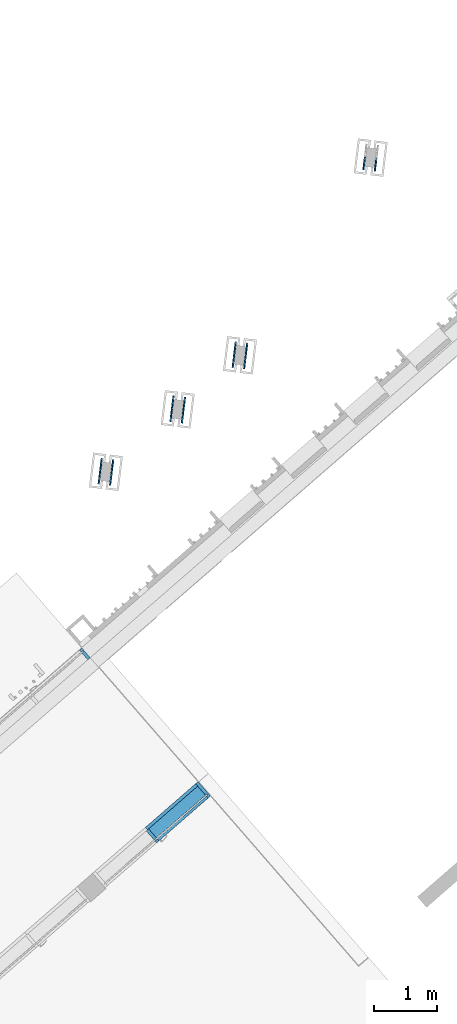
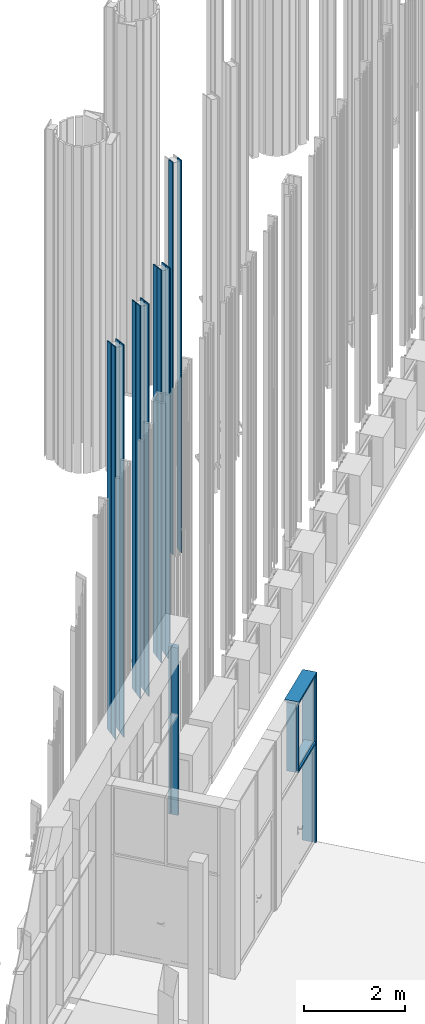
# One storey, part 45 of 390: 21 discrete accessories, 2 elements without a shape of their own.
"""IFC2X3 building model written with IfcOpenShell, lengths in millimetres."""

import ifcopenshell
import ifcopenshell.guid

model = None  # the IFC model being written
_history = None  # IfcOwnerHistory: only IFC2X3 demands one
_inside = {}  # id of a spatial element -> (the spatial element, [elements in it])
_under = {}  # id of a project, library or spatial element -> (it, [spatial elements below it])
_declared = {}  # id of a project -> (the project, [libraries it declares])
_typed = {}  # id of a type object -> (the type object, [elements of that type])
_made_of = {}  # id of a material, layer set ... -> (it, [elements and type objects made of it])


def new_model(schema):
    """Start an empty IFC model of exactly this schema.

    Asked for "IFC4X3", IfcOpenShell would pick the latest addendum, in which some entities
    have other attributes; the version numbers below select the first issue.
    IFC2X3 requires an IfcOwnerHistory on every rooted entity: one is made here for all.
    """
    global model, _history
    if schema == "IFC4X3":
        model = ifcopenshell.file(schema_version=(4, 3, 0, 0))
    else:
        model = ifcopenshell.file(schema=schema)
    _inside.clear()
    _under.clear()
    _declared.clear()
    _typed.clear()
    _made_of.clear()
    _history = None
    if model.schema == "IFC2X3":
        org = make("IfcOrganization", Name="unknown")
        user = make(
            "IfcPersonAndOrganization",
            ThePerson=make("IfcPerson", FamilyName="unknown"),
            TheOrganization=org,
        )
        app = make(
            "IfcApplication",
            ApplicationDeveloper=org,
            Version="unknown",
            ApplicationFullName="unknown",
            ApplicationIdentifier="unknown",
        )
        _history = make(
            "IfcOwnerHistory",
            OwningUser=user,
            OwningApplication=app,
            ChangeAction="ADDED",
            CreationDate=0,
        )
    return model


def make(cls, **values):
    """One entity of the class cls with the attributes given. An attribute that is None is left unset."""
    return model.create_entity(
        cls, **{name: value for name, value in values.items() if value is not None}
    )


def entity(cls, *values):
    """Any entity or typed value of the class cls, its attributes in the order of the schema. None: left unset."""
    e = model.create_entity(cls)
    for i, value in enumerate(values):
        if value is not None:
            e[i] = value
    return e


def rooted(cls, **values):
    """An entity with a GlobalId (a new one), such as an element, a storey or a relation."""
    return make(cls, GlobalId=ifcopenshell.guid.new(), OwnerHistory=_history, **values)


def si_unit(unit_type, name, prefix=None):
    """IfcSIUnit, for example si_unit("LENGTHUNIT", "METRE", prefix="MILLI")."""
    return make("IfcSIUnit", UnitType=unit_type, Prefix=prefix, Name=name)


def converted_unit(unit_type, name, factor, base, dimensions=None, offset=None):
    """IfcConversionBasedUnit, such as the inch: factor (a typed value) times the base unit."""
    return make(
        "IfcConversionBasedUnit"
        if offset is None
        else "IfcConversionBasedUnitWithOffset",
        ConversionOffset=offset,
        Dimensions=None
        if dimensions is None
        else entity("IfcDimensionalExponents", *dimensions),
        UnitType=unit_type,
        Name=name,
        ConversionFactor=make(
            "IfcMeasureWithUnit", ValueComponent=factor, UnitComponent=base
        ),
    )


def derived_unit(unit_type, elements):
    """IfcDerivedUnit: a product of units, each with its exponent."""
    return make(
        "IfcDerivedUnit",
        Elements=[
            make("IfcDerivedUnitElement", Unit=unit, Exponent=power)
            for unit, power in elements
        ],
        UnitType=unit_type,
    )


def money_unit(currency):
    """IfcMonetaryUnit."""
    return make("IfcMonetaryUnit", Currency=currency)


def assignment(units):
    """IfcUnitAssignment: the units of a project."""
    return None if units is None else make("IfcUnitAssignment", Units=units)


def point(xyz):
    """IfcCartesianPoint."""
    return None if xyz is None else make("IfcCartesianPoint", Coordinates=xyz)


def direction(xyz):
    """IfcDirection."""
    return None if xyz is None else make("IfcDirection", DirectionRatios=xyz)


def frame(location, z_axis=None, x_axis=None):
    """IfcAxis2Placement3D, a coordinate frame: its origin and axes. An axis left out is left unset."""
    return make(
        "IfcAxis2Placement3D",
        Location=point(location),
        Axis=direction(z_axis),
        RefDirection=direction(x_axis),
    )


def origin_with_axes():
    """The frame at (0, 0, 0) with the z axis (0, 0, 1) and the x axis (1, 0, 0) written out."""
    return frame((0.0, 0.0, 0.0), z_axis=(0.0, 0.0, 1.0), x_axis=(1.0, 0.0, 0.0))


def place(relative_to, where):
    """IfcLocalPlacement: puts the frame where relative to a parent placement (None: the world)."""
    return make(
        "IfcLocalPlacement", PlacementRelTo=relative_to, RelativePlacement=where
    )


def context(
    kind, dimensions, precision=None, world=None, true_north=None, identifier=None
):
    """IfcGeometricRepresentationContext, for example the 3D "Model" context."""
    return make(
        "IfcGeometricRepresentationContext",
        ContextIdentifier=identifier,
        ContextType=kind,
        CoordinateSpaceDimension=dimensions,
        Precision=precision,
        WorldCoordinateSystem=world,
        TrueNorth=true_north,
    )


def subcontext(parent, identifier, kind, view, scale=None):
    """IfcGeometricRepresentationSubContext, for example "Body" below "Model"."""
    return make(
        "IfcGeometricRepresentationSubContext",
        ContextIdentifier=identifier,
        ContextType=kind,
        ParentContext=parent,
        TargetScale=scale,
        TargetView=view,
    )


def project(units=None, contexts=None):
    """IfcProject with its units and contexts."""
    return rooted(
        "IfcProject",
        Name="project",
        RepresentationContexts=contexts,
        UnitsInContext=assignment(units),
    )


def spatial(cls, under=None, at=None, **own):
    """A site, building, storey or space (cls), placed at a placement, below another one or the project."""
    s = rooted(cls, ObjectPlacement=at, **own)
    if under is not None:
        _under.setdefault(under.id(), (under, []))[1].append(s)
    return s


def polyline(points):
    """IfcPolyline through the points."""
    return make("IfcPolyline", Points=[point(p) for p in points])


def outline(outer, holes=None, kind="AREA"):
    """IfcArbitraryClosedProfileDef: a profile drawn as a closed curve; with holes, ...WithVoids."""
    if holes is None:
        return make("IfcArbitraryClosedProfileDef", ProfileType=kind, OuterCurve=outer)
    return make(
        "IfcArbitraryProfileDefWithVoids",
        ProfileType=kind,
        OuterCurve=outer,
        InnerCurves=holes,
    )


def extrude(swept, where, along, depth):
    """IfcExtrudedAreaSolid: the profile swept, set in the frame where, extruded along a direction by depth."""
    return make(
        "IfcExtrudedAreaSolid",
        SweptArea=swept,
        Position=where,
        ExtrudedDirection=direction(along),
        Depth=depth,
    )


def clip(a, b, op="DIFFERENCE"):
    """IfcBooleanClippingResult: the solid a cut by the half space b."""
    return make(
        "IfcBooleanClippingResult", Operator=op, FirstOperand=a, SecondOperand=b
    )


def halfspace(plane, agree):
    """IfcHalfSpaceSolid: all space on one side of the plane z = 0 of the frame plane."""
    return make(
        "IfcHalfSpaceSolid",
        BaseSurface=make("IfcPlane", Position=plane),
        AgreementFlag=agree,
    )


def faces_of(points, faces, orient=None, outer=None):
    """IfcFace entities. A face is a list of loops; a loop is a list of indices into points, from 0.

    orient and outer hold one flag for each loop. By default every Orientation is true, the
    first loop of a face is its IfcFaceOuterBound and the others are IfcFaceBound.
    """
    made = []
    for i, loops in enumerate(faces):
        bounds = []
        for j, loop in enumerate(loops):
            is_outer = j == 0 if outer is None else outer[i][j]
            bounds.append(
                make(
                    "IfcFaceOuterBound" if is_outer else "IfcFaceBound",
                    Bound=make("IfcPolyLoop", Polygon=[points[k] for k in loop]),
                    Orientation=True if orient is None else orient[i][j],
                )
            )
        made.append(make("IfcFace", Bounds=bounds))
    return made


def faceted_brep(points, faces, orient=None, outer=None, voids=None):
    """IfcFacetedBrep: a solid bounded by flat faces; with voids (closed shells), ...WithVoids."""
    shared = [point(p) for p in points]
    hull = make("IfcClosedShell", CfsFaces=faces_of(shared, faces, orient, outer))
    if voids is None:
        return make("IfcFacetedBrep", Outer=hull)
    return make(
        "IfcFacetedBrepWithVoids",
        Outer=hull,
        Voids=[
            make(cls, CfsFaces=faces_of(shared, fs, o, b)) for cls, fs, o, b in voids
        ],
    )


def shape(context_of_items, identifier, shape_type, items):
    """IfcShapeRepresentation: the items that make up one representation, for example the "Body"."""
    return make(
        "IfcShapeRepresentation",
        ContextOfItems=context_of_items,
        RepresentationIdentifier=identifier,
        RepresentationType=shape_type,
        Items=items,
    )


def source(mapping_origin, context_of_items, identifier, shape_type, items):
    """IfcRepresentationMap: a shape defined once, which mapped items show again and again."""
    return make(
        "IfcRepresentationMap",
        MappingOrigin=mapping_origin,
        MappedRepresentation=shape(context_of_items, identifier, shape_type, items),
    )


def transform(
    local_origin,
    x_axis=None,
    y_axis=None,
    z_axis=None,
    scale=None,
    scale2=None,
    scale3=None,
    uniform=True,
):
    """IfcCartesianTransformationOperator3D, or its non-uniform kind. x_axis, y_axis, z_axis: its Axis1, 2, 3."""
    if uniform:
        return make(
            "IfcCartesianTransformationOperator3D",
            Axis1=direction(x_axis),
            Axis2=direction(y_axis),
            LocalOrigin=point(local_origin),
            Scale=scale,
            Axis3=direction(z_axis),
        )
    return make(
        "IfcCartesianTransformationOperator3DnonUniform",
        Axis1=direction(x_axis),
        Axis2=direction(y_axis),
        LocalOrigin=point(local_origin),
        Scale=scale,
        Axis3=direction(z_axis),
        Scale2=scale2,
        Scale3=scale3,
    )


def mapped(mapping_source, mapping_target):
    """IfcMappedItem: shows the shape of a source again, moved by a transform."""
    return make(
        "IfcMappedItem", MappingSource=mapping_source, MappingTarget=mapping_target
    )


def material(Name=None, Category=None):
    """IfcMaterial."""
    return make("IfcMaterial", Name=Name, Category=Category)


def material_list(materials):
    """IfcMaterialList."""
    return make("IfcMaterialList", Materials=materials)


def made_of(thing, what):
    """Note that an element or type object is made of a material, layer set ...; save() writes the relation."""
    if what is not None:
        _made_of.setdefault(what.id(), (what, []))[1].append(thing)
    return thing


def type_object(cls, material=None, **own):
    """A type object (cls), such as IfcWallType, which elements share."""
    return made_of(rooted(cls, **own), material)


def element(
    cls,
    number,
    at=None,
    inside=None,
    cuts=None,
    type_object=None,
    material=None,
    context=None,
    identifier="Body",
    shape_type=None,
    held_by="IfcProductDefinitionShape",
    body=None,
    shapes=None,
    **own,
):
    """One element of the class cls, such as IfcWall. Its Tag is "e" and its number.

    at: its placement. inside: the storey or other place that contains it. cuts: it is an
    opening in that element (IfcRelVoidsElement). A single representation is given by context,
    identifier, shape_type and body (its items); several are given by shapes. held_by: the class
    of the entity that holds the representations. save() writes the other relations.
    """
    e = rooted(cls, Tag="e%d" % number, ObjectPlacement=at, **own)
    if body is not None:
        shapes = [shape(context, identifier, shape_type, body)]
    if shapes is not None:
        e.Representation = make(held_by, Representations=shapes)
    if inside is not None:
        _inside.setdefault(inside.id(), (inside, []))[1].append(e)
    if cuts is not None:
        rooted(
            "IfcRelVoidsElement", RelatingBuildingElement=cuts, RelatedOpeningElement=e
        )
    if type_object is not None:
        _typed.setdefault(type_object.id(), (type_object, []))[1].append(e)
    return made_of(e, material)


def aggregate(whole, parts):
    """IfcRelAggregates: a whole, such as a stair, and the parts it consists of."""
    return rooted("IfcRelAggregates", RelatingObject=whole, RelatedObjects=parts)


def save(model, path):
    """Write the relations noted so far, then the file.

    IfcRelAggregates (storeys below a building ...), IfcRelContainedInSpatialStructure (elements
    in a storey), IfcRelDefinesByType, IfcRelAssociatesMaterial and IfcRelDeclares: one each for
    every whole, place, type object, material and project.
    """
    for whole, parts in _under.values():
        aggregate(whole, parts)
    for where, things in _inside.values():
        rooted(
            "IfcRelContainedInSpatialStructure",
            RelatedElements=things,
            RelatingStructure=where,
        )
    for kind, things in _typed.values():
        rooted("IfcRelDefinesByType", RelatedObjects=things, RelatingType=kind)
    for what, things in _made_of.values():
        rooted("IfcRelAssociatesMaterial", RelatedObjects=things, RelatingMaterial=what)
    for by, libraries in _declared.values():
        rooted("IfcRelDeclares", RelatingContext=by, RelatedDefinitions=libraries)
    model.write(path)


model = new_model("IFC2X3")

# Units and contexts
model_context = context("Model", 3, precision=1e-05, world=origin_with_axes(), true_north=direction((0.0, 1.0)))
body_context = subcontext(model_context, "Body", "Model", "MODEL_VIEW")
ifc_project = project(units=[si_unit("LENGTHUNIT", "METRE", prefix="MILLI"), si_unit("AREAUNIT", "SQUARE_METRE"), si_unit("VOLUMEUNIT", "CUBIC_METRE"), converted_unit("PLANEANGLEUNIT", "DEGREE", entity("IfcPlaneAngleMeasure", 0.0174532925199), si_unit("PLANEANGLEUNIT", "RADIAN"), dimensions=[0, 0, 0, 0, 0, 0, 0]), si_unit("SOLIDANGLEUNIT", "STERADIAN"), money_unit("EUR"), converted_unit("TIMEUNIT", "Year", entity("IfcTimeMeasure", 31556926.0), si_unit("TIMEUNIT", "SECOND"), dimensions=[0, 0, 1, 0, 0, 0, 0]), si_unit("MASSUNIT", "GRAM", prefix="KILO"), si_unit("THERMODYNAMICTEMPERATUREUNIT", "DEGREE_CELSIUS"), si_unit("LUMINOUSINTENSITYUNIT", "LUMEN"), si_unit("ENERGYUNIT", "JOULE", prefix="MEGA"), derived_unit("THERMALCONDUCTANCEUNIT", [(si_unit("POWERUNIT", "WATT"), 1), (si_unit("LENGTHUNIT", "METRE"), -1), (si_unit("THERMODYNAMICTEMPERATUREUNIT", "KELVIN"), -1)]), derived_unit("SPECIFICHEATCAPACITYUNIT", [(si_unit("ENERGYUNIT", "JOULE"), 1), (si_unit("MASSUNIT", "GRAM", prefix="KILO"), -1), (si_unit("THERMODYNAMICTEMPERATUREUNIT", "KELVIN"), -1)]), derived_unit("MASSDENSITYUNIT", [(si_unit("MASSUNIT", "GRAM", prefix="KILO"), 1), (si_unit("VOLUMEUNIT", "CUBIC_METRE"), -1)])], contexts=[model_context])

# Site, building, storey
site_placement = place(None, origin_with_axes())
site = spatial("IfcSite", under=ifc_project, at=site_placement, Name="Site", CompositionType="ELEMENT")
building_placement = place(site_placement, origin_with_axes())
building = spatial("IfcBuilding", under=site, at=building_placement, Name="Building", CompositionType="ELEMENT")
storey_placement = place(building_placement, origin_with_axes())
storey = spatial("IfcBuildingStorey", under=building, at=storey_placement, Name="1 korrus", CompositionType="ELEMENT", Elevation=0.0)

# Discrete accessories
ifc_material_1 = material(Name="GENEERILINE - VÄLINE VOODER")
discrete_accessory_type_1 = type_object("IfcDiscreteAccessoryType", Name="GENEERILINE - VÄLINE VOODER")
shared_shape_1 = source(origin_with_axes(), body_context, "Body", "Brep", [
    faceted_brep([(162190.360855, 119453.798876, 100.0), (162190.360855, 119453.798876, 9600.0), (162168.524839, 119456.480002, 9600.0), (162168.524839, 119456.480002, 100.0), (162214.734723, 119652.308107, 100.0), (162214.734723, 119652.308107, 9546.41016151), (162192.898708, 119654.989232, 9546.41016151), (162192.898708, 119654.989232, 100.0)], [[[0, 1, 2, 3]], [[1, 0, 4, 5]], [[2, 1, 5, 6]], [[3, 2, 6, 7]], [[0, 3, 7, 4]], [[7, 6, 5, 4]]]),
])
for number, where, z_axis, x_axis in (
    (1, (-25595.48661, -28477.378131, 0.0), (0.0, 0.0, 1.0), (1.0, 0.0, 0.0)),
    (2, (-24463.4222397, -27493.2895874, 0.0), (0.0, 0.0, 1.0), (1.0, 0.0, 0.0)),
    (3, (-21421.4043259, -23523.8907648, 0.0), (0.0, 0.0, 1.0), (1.0, 0.0, 0.0)),
    (4, (-23482.2997855, -26640.4128496, 0.0), (0.0, 0.0, 1.0), (1.0, 0.0, 0.0)),
):
    element("IfcDiscreteAccessory", number, at=place(storey_placement, frame(where, z_axis=z_axis, x_axis=x_axis)), inside=storey, type_object=discrete_accessory_type_1, material=ifc_material_1, Name="Päikesevarjestuspost", context=body_context, shape_type="MappedRepresentation", body=[
        mapped(shared_shape_1, transform((0.0, 0.0, 0.0))),
    ])
shared_shape_2 = source(origin_with_axes(), body_context, "Body", "Brep", [
    faceted_brep([(162194.117401, 119664.914694, 100.0), (162215.953417, 119662.233568, 100.0), (162215.953417, 119662.233568, 9543.73066959), (162194.117401, 119664.914694, 9543.73066959), (162218.49127, 119863.423924, 100.0), (162240.327285, 119860.742798, 100.0), (162240.327285, 119860.742798, 9490.1408311), (162218.49127, 119863.423924, 9490.1408311)], [[[0, 1, 2, 3]], [[1, 0, 4, 5]], [[2, 1, 5, 6]], [[3, 2, 6, 7]], [[0, 3, 7, 4]], [[4, 7, 6, 5]]]),
])
for number, where, z_axis, x_axis in (
    (5, (-25595.48661, -28477.378131, 0.0), (0.0, 0.0, 1.0), (1.0, 0.0, 0.0)),
    (6, (-23482.2997855, -26640.4128496, 0.0), (0.0, 0.0, 1.0), (1.0, 0.0, 0.0)),
    (7, (-24463.4222397, -27493.2895874, 0.0), (0.0, 0.0, 1.0), (1.0, 0.0, 0.0)),
):
    element("IfcDiscreteAccessory", number, at=place(storey_placement, frame(where, z_axis=z_axis, x_axis=x_axis)), inside=storey, type_object=discrete_accessory_type_1, material=ifc_material_1, Name="Päikesevarjestuspost", context=body_context, shape_type="MappedRepresentation", body=[
        mapped(shared_shape_2, transform((0.0, 0.0, 0.0))),
    ])
shared_shape_3 = source(origin_with_axes(), body_context, "Body", "Brep", [
    faceted_brep([(-162194.117401, 119664.914694, 100.0), (-162194.117401, 119664.914694, 9543.73066959), (-162215.953417, 119662.233568, 9543.73066959), (-162215.953417, 119662.233568, 100.0), (-162218.49127, 119863.423924, 100.0), (-162218.49127, 119863.423924, 9490.1408311), (-162240.327285, 119860.742798, 9490.1408311), (-162240.327285, 119860.742798, 100.0)], [[[0, 1, 2, 3]], [[0, 4, 5, 1]], [[1, 5, 6, 2]], [[2, 6, 7, 3]], [[3, 7, 4, 0]], [[4, 7, 6, 5]]]),
])
for number, where, z_axis, x_axis in (
    (8, (266359.870545, -63201.8998676, 0.0), (0.0, 0.0, 1.0), (0.970295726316, -0.241921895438, 0.0)),
    (9, (265227.806175, -64185.9884112, 0.0), (0.0, 0.0, 1.0), (0.970295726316, -0.241921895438, 0.0)),
    (10, (267340.992999, -62349.0231299, 0.0), (0.0, 0.0, 1.0), (0.970295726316, -0.241921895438, 0.0)),
):
    element("IfcDiscreteAccessory", number, at=place(storey_placement, frame(where, z_axis=z_axis, x_axis=x_axis)), inside=storey, type_object=discrete_accessory_type_1, material=ifc_material_1, Name="Päikesevarjestuspost", context=body_context, shape_type="MappedRepresentation", body=[
        mapped(shared_shape_3, transform((0.0, 0.0, 0.0))),
    ])
shared_shape_4 = source(origin_with_axes(), body_context, "Body", "Brep", [
    faceted_brep([(-162190.360855, 119453.798876, 100.0), (-162168.524839, 119456.480002, 100.0), (-162168.524839, 119456.480002, 9600.0), (-162190.360855, 119453.798876, 9600.0), (-162214.734723, 119652.308107, 100.0), (-162192.898708, 119654.989232, 100.0), (-162192.898708, 119654.989232, 9546.41016151), (-162214.734723, 119652.308107, 9546.41016151)], [[[0, 1, 2, 3]], [[0, 4, 5, 1]], [[1, 5, 6, 2]], [[2, 6, 7, 3]], [[3, 7, 4, 0]], [[5, 4, 7, 6]]]),
])
for number, where, z_axis, x_axis in (
    (11, (266359.870545, -63201.8998676, 0.0), (0.0, 0.0, 1.0), (0.970295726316, -0.241921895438, 0.0)),
    (12, (265227.806175, -64185.9884112, 0.0), (0.0, 0.0, 1.0), (0.970295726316, -0.241921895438, 0.0)),
    (13, (269401.888459, -59232.5010451, 0.0), (0.0, 0.0, 1.0), (0.970295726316, -0.241921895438, 0.0)),
    (14, (267340.992999, -62349.0231299, 0.0), (0.0, 0.0, 1.0), (0.970295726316, -0.241921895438, 0.0)),
):
    element("IfcDiscreteAccessory", number, at=place(storey_placement, frame(where, z_axis=z_axis, x_axis=x_axis)), inside=storey, type_object=discrete_accessory_type_1, material=ifc_material_1, Name="Päikesevarjestuspost", context=body_context, shape_type="MappedRepresentation", body=[
        mapped(shared_shape_4, transform((0.0, 0.0, 0.0))),
    ])

# Curtain wall, discrete accessories
curtain_wall_type_1 = type_object("IfcCurtainWallType", Name="KS-18", PredefinedType="NOTDEFINED")
curtain_wall_1_placement = place(storey_placement, frame((137484.771856, 85373.6641261, -5.55524941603e-05), z_axis=(0.0, 0.0, 1.0), x_axis=(1.0, 0.0, 0.0)))
curtain_wall_1 = element("IfcCurtainWall", 15, at=curtain_wall_1_placement, inside=storey, type_object=curtain_wall_type_1, Name="Klaas-sein")
ifc_material_2 = material(Name="Aluminium MUST")
discrete_accessory_type_2 = type_object("IfcDiscreteAccessoryType", Name="50 x 300")
discrete_accessory_1_placement = place(curtain_wall_1_placement, frame((830.180537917, 721.664932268, 0.0), z_axis=(0.0, 0.0, 1.0), x_axis=(0.754709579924, 0.656059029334, 0.0)))
discrete_accessory_1 = element("IfcDiscreteAccessory", 16, at=discrete_accessory_1_placement, type_object=discrete_accessory_type_2, material=ifc_material_2, Name="KS-18 profiil", context=body_context, shape_type="SweptSolid", body=[
    extrude(outline(polyline([(-25.4283297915, -8.85437993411), (-12.3071492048, -23.9485715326), (-31.1748887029, -40.3500472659), (-4.93252752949, -70.5384304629), (32.8029514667, -37.7354789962), (-164.014757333, 188.677394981), (-201.75023633, 155.874443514), (-44.2960692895, -25.2558556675), (-25.4283297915, -8.85437993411)])), frame((0.0, 0.0, 0.0), z_axis=(0.0, 0.0, 1.0), x_axis=(0.754709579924, -0.656059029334, 0.0)), (0.0, 0.0, 1.0), 2425.00005555),
])
discrete_accessory_2_placement = place(curtain_wall_1_placement, frame((0.0, 0.0, 4099.9999537), z_axis=(0.754709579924, 0.656059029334, 0.0), x_axis=(0.0, 0.0, -1.0)))
discrete_accessory_2 = element("IfcDiscreteAccessory", 17, at=discrete_accessory_2_placement, type_object=discrete_accessory_type_2, material=ifc_material_2, Name="KS-18 profiil", context=body_context, shape_type="Clipping", body=[
    clip(extrude(outline(polyline([(-10.0, 25.0), (-10.0, 50.0), (-250.0, 50.0), (-250.0, 0.0), (50.0, 0.0), (50.0, 50.0), (9.99999999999, 50.0), (9.99999999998, 25.0), (-10.0, 25.0)])), frame((0.0, 0.0, 0.0), z_axis=(0.0, 0.0, 1.0), x_axis=(0.0, -1.0, 0.0)), (0.0, 0.0, 1.0), 1100.0), halfspace(frame((550.0, 0.0, 550.0), z_axis=(-0.707106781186, 0.0, -0.707106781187), x_axis=(0.0, 1.0, 0.0)), True)),
])
discrete_accessory_3_placement = place(curtain_wall_1_placement, frame((830.180537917, 721.664932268, 2425.00005555), z_axis=(0.0, 0.0, 1.0), x_axis=(0.754709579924, 0.656059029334, 0.0)))
discrete_accessory_3 = element("IfcDiscreteAccessory", 18, at=discrete_accessory_3_placement, type_object=discrete_accessory_type_2, material=ifc_material_2, Name="KS-18 profiil", context=body_context, shape_type="Clipping", body=[
    clip(extrude(outline(polyline([(-25.4283297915, -8.85437993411), (-12.3071492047, -23.9485715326), (-31.1748887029, -40.3500472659), (-4.93252752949, -70.5384304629), (32.8029514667, -37.7354789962), (-164.014757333, 188.677394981), (-201.75023633, 155.874443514), (-44.2960692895, -25.2558556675), (-25.4283297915, -8.85437993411)])), frame((0.0, 0.0, 0.0), z_axis=(0.0, 0.0, 1.0), x_axis=(0.754709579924, -0.656059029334, 0.0)), (0.0, 0.0, 1.0), 1674.99989815), halfspace(frame((-837.499949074, 0.0, 837.499949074), z_axis=(0.707106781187, 0.0, -0.707106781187), x_axis=(0.0, 1.0, 0.0)), True)),
])
ifc_material_list_1 = material_list([ifc_material_2, ifc_material_2])
discrete_accessory_type_3 = type_object("IfcDiscreteAccessoryType", Name="50 x 250")
discrete_accessory_4_placement = place(curtain_wall_1_placement, frame((0.0, 0.0, 2425.00005555), z_axis=(0.0, 0.0, 1.0), x_axis=(0.754709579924, 0.656059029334, 0.0)))
discrete_accessory_4 = element("IfcDiscreteAccessory", 19, at=discrete_accessory_4_placement, type_object=discrete_accessory_type_3, material=ifc_material_list_1, Name="KS-18 profiil", context=body_context, shape_type="SweptSolid", body=[
    extrude(outline(polyline([(12.3071492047, 23.9485715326), (-112.344066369, 167.343391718), (-150.079545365, 134.540440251), (-25.4283297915, -8.85437993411), (12.3071492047, 23.9485715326)])), frame((0.0, 0.0, -25.0), z_axis=(0.0, 0.0, 1.0), x_axis=(0.754709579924, -0.656059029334, 0.0)), (0.0, 0.0, 1.0), 1649.99989815),
    extrude(outline(polyline([(-12.3071492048, -23.9485715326), (13.9352119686, -54.1369547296), (51.6706909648, -21.3340032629), (25.4283297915, 8.85437993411), (-12.3071492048, -23.9485715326)])), frame((0.0, 0.0, -25.0), z_axis=(0.0, 0.0, 1.0), x_axis=(0.754709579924, -0.656059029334, 0.0)), (0.0, 0.0, 1.0), 1649.99989815),
])
discrete_accessory_5_placement = place(curtain_wall_1_placement, frame((830.180537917, 721.664932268, 2425.00005555), z_axis=(-0.754709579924, -0.656059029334, 0.0), x_axis=(0.0, 0.0, 1.0)))
discrete_accessory_5 = element("IfcDiscreteAccessory", 20, at=discrete_accessory_5_placement, type_object=discrete_accessory_type_3, material=ifc_material_list_1, Name="KS-18 profiil", context=body_context, shape_type="SweptSolid", body=[
    extrude(outline(polyline([(9.99999999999, -25.0), (200.0, -25.0), (200.0, 25.0), (9.99999999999, 25.0), (9.99999999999, -25.0)])), frame((0.0, 0.0, 50.0), z_axis=(0.0, 0.0, 1.0), x_axis=(0.0, 1.0, 0.0)), (0.0, 0.0, 1.0), 1025.0),
    extrude(outline(polyline([(-9.99999999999, 25.0), (-50.0, 25.0), (-50.0, -25.0), (-9.99999999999, -25.0), (-9.99999999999, 25.0)])), frame((0.0, 0.0, 50.0), z_axis=(0.0, 0.0, 1.0), x_axis=(0.0, 1.0, 0.0)), (0.0, 0.0, 1.0), 1025.0),
])
aggregate(curtain_wall_1, [discrete_accessory_1, discrete_accessory_4, discrete_accessory_5, discrete_accessory_2, discrete_accessory_3])

curtain_wall_type_2 = type_object("IfcCurtainWallType", Name="KLF-16", PredefinedType="NOTDEFINED")
curtain_wall_2_placement = place(storey_placement, frame((129915.663376, 82755.7268841, -0.000187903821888), z_axis=(0.0, 0.0, 1.0), x_axis=(1.0, 0.0, 0.0)))
curtain_wall_2 = element("IfcCurtainWall", 21, at=curtain_wall_2_placement, inside=storey, type_object=curtain_wall_type_2, Name="Klaasfassaad")
ifc_material_list_2 = material_list([ifc_material_2, ifc_material_2, ifc_material_2])
discrete_accessory_type_4 = type_object("IfcDiscreteAccessoryType", Name="50 x 200")
discrete_accessory_6_placement = place(curtain_wall_2_placement, frame((6437.67271661, 5596.18352039, -0.000126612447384), z_axis=(0.0, 0.0, 1.0), x_axis=(0.754709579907, 0.656059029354, 0.0)))
discrete_accessory_6 = element("IfcDiscreteAccessory", 22, at=discrete_accessory_6_placement, type_object=discrete_accessory_type_4, material=ifc_material_list_2, Name="KLF-16 profiil", context=body_context, shape_type="SweptSolid", body=[
    extrude(outline(polyline([(-12.3071492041, -23.9485715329), (6.56059029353, -7.54709579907), (-6.56059029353, 7.54709579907), (-25.4283297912, -8.85437993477), (-12.3071492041, -23.9485715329)])), frame((0.0, 0.0, 0.0), z_axis=(0.0, 0.0, 1.0), x_axis=(0.754709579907, -0.656059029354, 0.0)), (0.0, 0.0, 1.0), 2435.00031452),
    extrude(outline(polyline([(60.6733754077, -146.009388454), (98.408854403, -113.206436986), (6.56059029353, -7.54709579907), (-31.1748887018, -40.3500472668), (60.6733754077, -146.009388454)])), frame((0.0, 0.0, 0.0), z_axis=(0.0, 0.0, 1.0), x_axis=(0.754709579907, -0.656059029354, 0.0)), (0.0, 0.0, 1.0), 2435.00031452),
    extrude(outline(polyline([(-32.8029514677, 37.7354789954), (-70.538430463, 4.93252752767), (-44.2960692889, -25.2558556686), (-6.56059029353, 7.54709579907), (-32.8029514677, 37.7354789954)])), frame((0.0, 0.0, 0.0), z_axis=(0.0, 0.0, 1.0), x_axis=(0.754709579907, -0.656059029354, 0.0)), (0.0, 0.0, 1.0), 2435.00031452),
])
discrete_accessory_7_placement = place(curtain_wall_2_placement, frame((6437.67271661, 5596.18352039, 2435.0001879), z_axis=(0.0, 0.0, 1.0), x_axis=(0.754709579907, 0.656059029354, 0.0)))
discrete_accessory_7 = element("IfcDiscreteAccessory", 23, at=discrete_accessory_7_placement, type_object=discrete_accessory_type_4, material=ifc_material_list_2, Name="KLF-16 profiil", context=body_context, shape_type="Clipping", body=[
    clip(extrude(outline(polyline([(-12.3071492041, -23.9485715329), (6.56059029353, -7.54709579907), (-6.56059029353, 7.54709579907), (-25.4283297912, -8.85437993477), (-12.3071492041, -23.9485715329)])), frame((0.0, 0.0, 0.0), z_axis=(0.0, 0.0, 1.0), x_axis=(0.754709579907, -0.656059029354, 0.0)), (0.0, 0.0, 1.0), 1664.99969365), halfspace(frame((-832.499846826, 0.0, 832.499846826), z_axis=(0.707106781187, 0.0, -0.707106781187), x_axis=(0.0, 1.0, 0.0)), True)),
    clip(extrude(outline(polyline([(60.6733754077, -146.009388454), (98.408854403, -113.206436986), (6.56059029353, -7.54709579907), (-31.1748887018, -40.3500472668), (60.6733754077, -146.009388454)])), frame((0.0, 0.0, 0.0), z_axis=(0.0, 0.0, 1.0), x_axis=(0.754709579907, -0.656059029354, 0.0)), (0.0, 0.0, 1.0), 1664.99969365), halfspace(frame((-832.499846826, 0.0, 832.499846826), z_axis=(0.707106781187, 0.0, -0.707106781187), x_axis=(0.0, 1.0, 0.0)), True)),
    clip(extrude(outline(polyline([(-32.8029514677, 37.7354789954), (-70.538430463, 4.93252752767), (-44.2960692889, -25.2558556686), (-6.56059029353, 7.54709579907), (-32.8029514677, 37.7354789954)])), frame((0.0, 0.0, 0.0), z_axis=(0.0, 0.0, 1.0), x_axis=(0.754709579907, -0.656059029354, 0.0)), (0.0, 0.0, 1.0), 1664.99969365), halfspace(frame((-832.499846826, 0.0, 832.499846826), z_axis=(0.707106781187, 0.0, -0.707106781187), x_axis=(0.0, 1.0, 0.0)), True)),
])
aggregate(curtain_wall_2, [discrete_accessory_6, discrete_accessory_7])

save(model, "model.ifc")
